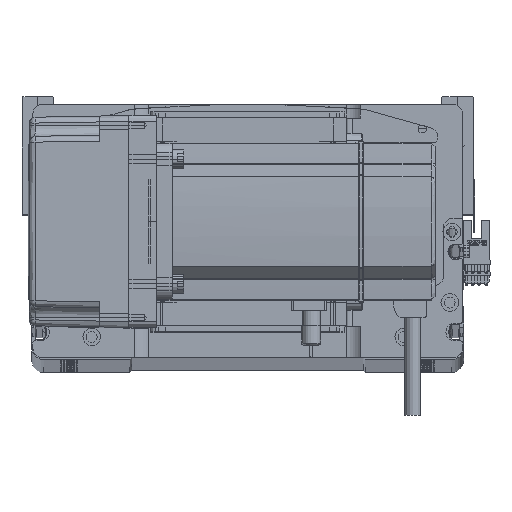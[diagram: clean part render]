
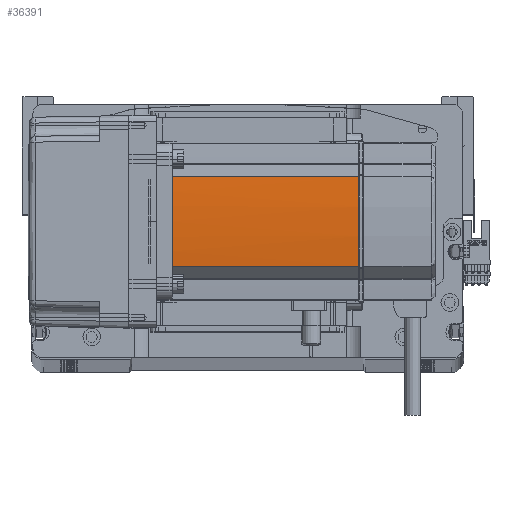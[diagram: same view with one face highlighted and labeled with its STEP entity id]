
A CAD part, top view. The second image highlights one B-rep face of the part: STEP entity #36391.
In plain terms, the highlighted cylindrical face has radius 270 mm (diameter 540 mm), a partial arc.
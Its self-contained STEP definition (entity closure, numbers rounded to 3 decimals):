
#249 = CARTESIAN_POINT ( 'NONE',  ( 39.042, -22.724, 39. ) ) ;
#1233 = DIRECTION ( 'NONE',  ( 0., 0., -1. ) ) ;
#1722 = CARTESIAN_POINT ( 'NONE',  ( 39.042, -22.724, 134. ) ) ;
#3457 = VERTEX_POINT ( 'NONE', #249 ) ;
#3886 = DIRECTION ( 'NONE',  ( 0., 0., 1. ) ) ;
#3949 = DIRECTION ( 'NONE',  ( 0., 0., -1. ) ) ;
#4154 = DIRECTION ( 'NONE',  ( -1., 0., 0. ) ) ;
#4218 = ORIENTED_EDGE ( 'NONE', *, *, #17060, .F. ) ;
#5660 = EDGE_CURVE ( 'NONE', #39650, #43796, #18419, .T. ) ;
#8515 = CARTESIAN_POINT ( 'NONE',  ( -230., 0., 39. ) ) ;
#10676 = CIRCLE ( 'NONE', #40246, 270. ) ;
#11015 = CARTESIAN_POINT ( 'NONE',  ( 40., 0.042, 134. ) ) ;
#12130 = CARTESIAN_POINT ( 'NONE',  ( 39.042, 22.724, 134. ) ) ;
#12859 = DIRECTION ( 'NONE',  ( -1., 0., 0. ) ) ;
#13681 = ORIENTED_EDGE ( 'NONE', *, *, #50303, .T. ) ;
#14584 = AXIS2_PLACEMENT_3D ( 'NONE', #8515, #27018, #12859 ) ;
#16072 = CARTESIAN_POINT ( 'NONE',  ( 40., -0.127, 134. ) ) ;
#17060 = EDGE_CURVE ( 'NONE', #18551, #3457, #41356, .T. ) ;
#17891 = B_SPLINE_CURVE_WITH_KNOTS ( 'NONE', 3,
 ( #48846, #39132, #11015, #49049 ),
 .UNSPECIFIED., .F., .F.,
 ( 4, 4 ),
 ( 0., 1. ),
 .UNSPECIFIED. ) ;
#17894 = VERTEX_POINT ( 'NONE', #1722 ) ;
#18419 = CIRCLE ( 'NONE', #58836, 270. ) ;
#18551 = VERTEX_POINT ( 'NONE', #28619 ) ;
#21145 = EDGE_LOOP ( 'NONE', ( #33856, #4218, #40722, #56576, #59801, #13681 ) ) ;
#23361 = FACE_OUTER_BOUND ( 'NONE', #21145, .T. ) ;
#27018 = DIRECTION ( 'NONE',  ( 0., 0., -1. ) ) ;
#27589 = LINE ( 'NONE', #51796, #52597 ) ;
#28569 = CYLINDRICAL_SURFACE ( 'NONE', #59881, 270. ) ;
#28619 = CARTESIAN_POINT ( 'NONE',  ( 39.042, 22.724, 39. ) ) ;
#29176 = CARTESIAN_POINT ( 'NONE',  ( -230., 0., 134. ) ) ;
#33856 = ORIENTED_EDGE ( 'NONE', *, *, #43738, .T. ) ;
#33867 = CARTESIAN_POINT ( 'NONE',  ( 40., 0.127, 134. ) ) ;
#34979 = VERTEX_POINT ( 'NONE', #16072 ) ;
#36391 = ADVANCED_FACE ( 'NONE', ( #23361 ), #28569, .T. ) ;
#37749 = LINE ( 'NONE', #43979, #58329 ) ;
#38677 = CARTESIAN_POINT ( 'NONE',  ( -230., 0., 58. ) ) ;
#39132 = CARTESIAN_POINT ( 'NONE',  ( 40., -0.042, 134. ) ) ;
#39272 = DIRECTION ( 'NONE',  ( -1., 0., 0. ) ) ;
#39650 = VERTEX_POINT ( 'NONE', #12130 ) ;
#40246 = AXIS2_PLACEMENT_3D ( 'NONE', #29176, #1233, #47460 ) ;
#40722 = ORIENTED_EDGE ( 'NONE', *, *, #40745, .T. ) ;
#40745 = EDGE_CURVE ( 'NONE', #18551, #39650, #27589, .T. ) ;
#41356 = CIRCLE ( 'NONE', #14584, 270. ) ;
#43738 = EDGE_CURVE ( 'NONE', #17894, #3457, #37749, .T. ) ;
#43796 = VERTEX_POINT ( 'NONE', #33867 ) ;
#43979 = CARTESIAN_POINT ( 'NONE',  ( 39.042, -22.724, 58. ) ) ;
#47460 = DIRECTION ( 'NONE',  ( -1., 0., 0. ) ) ;
#47688 = DIRECTION ( 'NONE',  ( 0., 0., -1. ) ) ;
#48846 = CARTESIAN_POINT ( 'NONE',  ( 40., -0.127, 134. ) ) ;
#49049 = CARTESIAN_POINT ( 'NONE',  ( 40., 0.127, 134. ) ) ;
#50303 = EDGE_CURVE ( 'NONE', #34979, #17894, #10676, .T. ) ;
#50602 = CARTESIAN_POINT ( 'NONE',  ( -230., 0., 134. ) ) ;
#51796 = CARTESIAN_POINT ( 'NONE',  ( 39.042, 22.724, 58. ) ) ;
#52597 = VECTOR ( 'NONE', #3886, 1000. ) ;
#56576 = ORIENTED_EDGE ( 'NONE', *, *, #5660, .T. ) ;
#57604 = DIRECTION ( 'NONE',  ( 0., 0., -1. ) ) ;
#58329 = VECTOR ( 'NONE', #47688, 1000. ) ;
#58719 = EDGE_CURVE ( 'NONE', #34979, #43796, #17891, .T. ) ;
#58836 = AXIS2_PLACEMENT_3D ( 'NONE', #50602, #3949, #4154 ) ;
#59801 = ORIENTED_EDGE ( 'NONE', *, *, #58719, .F. ) ;
#59881 = AXIS2_PLACEMENT_3D ( 'NONE', #38677, #57604, #39272 ) ;
